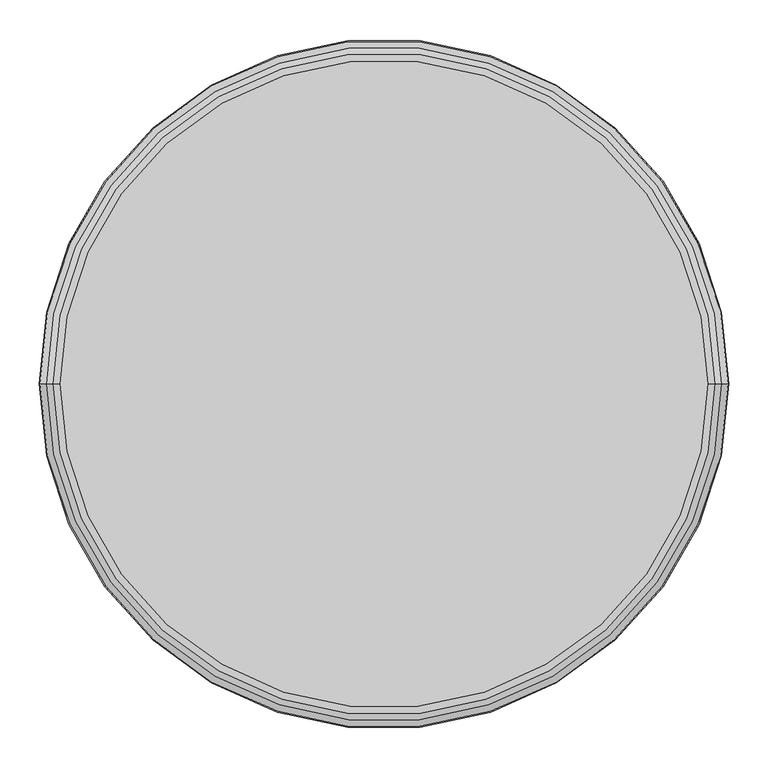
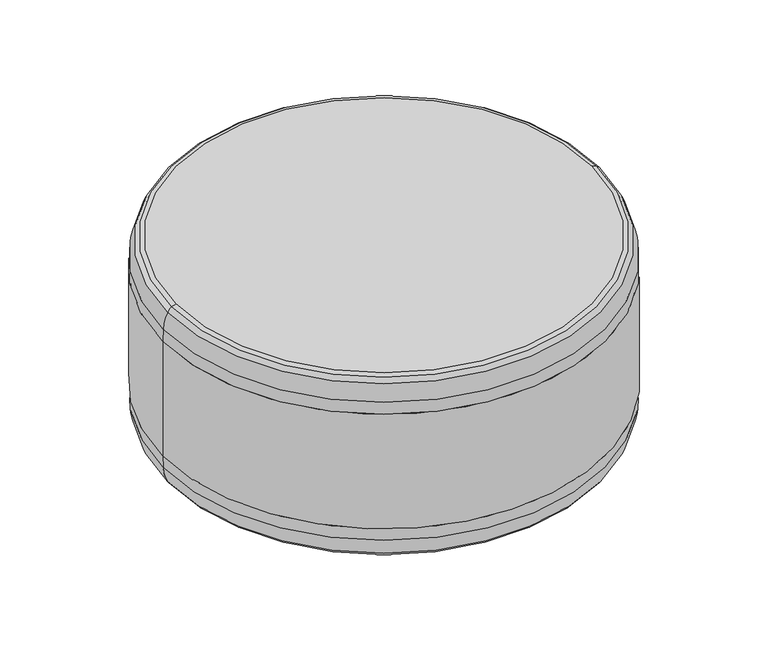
"""IFC4 building model written with IfcOpenShell, lengths in millimetres: furniture geometry, Puff - COLAB - 06 SP : Puff - COLAB - 06 SP."""

import ifcopenshell
import ifcopenshell.guid

model = None  # the IFC model being written
_history = None  # IfcOwnerHistory: only IFC2X3 demands one
_inside = {}  # id of a spatial element -> (the spatial element, [elements in it])
_under = {}  # id of a project, library or spatial element -> (it, [spatial elements below it])
_declared = {}  # id of a project -> (the project, [libraries it declares])
_typed = {}  # id of a type object -> (the type object, [elements of that type])
_made_of = {}  # id of a material, layer set ... -> (it, [elements and type objects made of it])


def new_model(schema):
    """Start an empty IFC model of exactly this schema.

    Asked for "IFC4X3", IfcOpenShell would pick the latest addendum, in which some entities
    have other attributes; the version numbers below select the first issue.
    IFC2X3 requires an IfcOwnerHistory on every rooted entity: one is made here for all.
    """
    global model, _history
    if schema == "IFC4X3":
        model = ifcopenshell.file(schema_version=(4, 3, 0, 0))
    else:
        model = ifcopenshell.file(schema=schema)
    _inside.clear()
    _under.clear()
    _declared.clear()
    _typed.clear()
    _made_of.clear()
    _history = None
    if model.schema == "IFC2X3":
        org = make("IfcOrganization", Name="unknown")
        user = make(
            "IfcPersonAndOrganization",
            ThePerson=make("IfcPerson", FamilyName="unknown"),
            TheOrganization=org,
        )
        app = make(
            "IfcApplication",
            ApplicationDeveloper=org,
            Version="unknown",
            ApplicationFullName="unknown",
            ApplicationIdentifier="unknown",
        )
        _history = make(
            "IfcOwnerHistory",
            OwningUser=user,
            OwningApplication=app,
            ChangeAction="ADDED",
            CreationDate=0,
        )
    return model


def make(cls, **values):
    """One entity of the class cls with the attributes given. An attribute that is None is left unset."""
    return model.create_entity(
        cls, **{name: value for name, value in values.items() if value is not None}
    )


def rooted(cls, **values):
    """An entity with a GlobalId (a new one), such as an element, a storey or a relation."""
    return make(cls, GlobalId=ifcopenshell.guid.new(), OwnerHistory=_history, **values)


def si_unit(unit_type, name, prefix=None):
    """IfcSIUnit, for example si_unit("LENGTHUNIT", "METRE", prefix="MILLI")."""
    return make("IfcSIUnit", UnitType=unit_type, Prefix=prefix, Name=name)


def assignment(units):
    """IfcUnitAssignment: the units of a project."""
    return None if units is None else make("IfcUnitAssignment", Units=units)


def point(xyz):
    """IfcCartesianPoint."""
    return None if xyz is None else make("IfcCartesianPoint", Coordinates=xyz)


def direction(xyz):
    """IfcDirection."""
    return None if xyz is None else make("IfcDirection", DirectionRatios=xyz)


def frame(location, z_axis=None, x_axis=None):
    """IfcAxis2Placement3D, a coordinate frame: its origin and axes. An axis left out is left unset."""
    return make(
        "IfcAxis2Placement3D",
        Location=point(location),
        Axis=direction(z_axis),
        RefDirection=direction(x_axis),
    )


def frame_2d(location, x_axis=None):
    """IfcAxis2Placement2D, a coordinate frame in the plane: its origin and x axis."""
    return make(
        "IfcAxis2Placement2D", Location=point(location), RefDirection=direction(x_axis)
    )


def origin():
    """The frame at (0, 0, 0) with its axes left unset."""
    return frame((0.0, 0.0, 0.0))


def origin_with_axes():
    """The frame at (0, 0, 0) with the z axis (0, 0, 1) and the x axis (1, 0, 0) written out."""
    return frame((0.0, 0.0, 0.0), z_axis=(0.0, 0.0, 1.0), x_axis=(1.0, 0.0, 0.0))


def place(relative_to, where):
    """IfcLocalPlacement: puts the frame where relative to a parent placement (None: the world)."""
    return make(
        "IfcLocalPlacement", PlacementRelTo=relative_to, RelativePlacement=where
    )


def context(
    kind, dimensions, precision=None, world=None, true_north=None, identifier=None
):
    """IfcGeometricRepresentationContext, for example the 3D "Model" context."""
    return make(
        "IfcGeometricRepresentationContext",
        ContextIdentifier=identifier,
        ContextType=kind,
        CoordinateSpaceDimension=dimensions,
        Precision=precision,
        WorldCoordinateSystem=world,
        TrueNorth=true_north,
    )


def project(units=None, contexts=None):
    """IfcProject with its units and contexts."""
    return rooted(
        "IfcProject",
        Name="project",
        RepresentationContexts=contexts,
        UnitsInContext=assignment(units),
    )


def spatial(cls, under=None, at=None, **own):
    """A site, building, storey or space (cls), placed at a placement, below another one or the project."""
    s = rooted(cls, ObjectPlacement=at, **own)
    if under is not None:
        _under.setdefault(under.id(), (under, []))[1].append(s)
    return s


def circle_curve(where, radius):
    """IfcCircle in the frame where."""
    return make("IfcCircle", Position=where, Radius=radius)


def ellipse_curve(where, semi_axis1, semi_axis2):
    """IfcEllipse in the frame where."""
    return make(
        "IfcEllipse", Position=where, SemiAxis1=semi_axis1, SemiAxis2=semi_axis2
    )


def trimmed(basis, trim1, trim2, sense, master):
    """IfcTrimmedCurve: the piece of a basis curve between two trims."""
    return make(
        "IfcTrimmedCurve",
        BasisCurve=basis,
        Trim1=trim1,
        Trim2=trim2,
        SenseAgreement=sense,
        MasterRepresentation=master,
    )


def segment(curve, same_sense, transition):
    """IfcCompositeCurveSegment."""
    return make(
        "IfcCompositeCurveSegment",
        Transition=transition,
        SameSense=same_sense,
        ParentCurve=curve,
    )


def composite_curve(segments, self_intersect=None):
    """IfcCompositeCurve: segments joined end to end."""
    return make("IfcCompositeCurve", Segments=segments, SelfIntersect=self_intersect)


def outline(outer, holes=None, kind="AREA"):
    """IfcArbitraryClosedProfileDef: a profile drawn as a closed curve; with holes, ...WithVoids."""
    if holes is None:
        return make("IfcArbitraryClosedProfileDef", ProfileType=kind, OuterCurve=outer)
    return make(
        "IfcArbitraryProfileDefWithVoids",
        ProfileType=kind,
        OuterCurve=outer,
        InnerCurves=holes,
    )


def extrude(swept, where, along, depth):
    """IfcExtrudedAreaSolid: the profile swept, set in the frame where, extruded along a direction by depth."""
    return make(
        "IfcExtrudedAreaSolid",
        SweptArea=swept,
        Position=where,
        ExtrudedDirection=direction(along),
        Depth=depth,
    )


def shape(context_of_items, identifier, shape_type, items):
    """IfcShapeRepresentation: the items that make up one representation, for example the "Body"."""
    return make(
        "IfcShapeRepresentation",
        ContextOfItems=context_of_items,
        RepresentationIdentifier=identifier,
        RepresentationType=shape_type,
        Items=items,
    )


def source(mapping_origin, context_of_items, identifier, shape_type, items):
    """IfcRepresentationMap: a shape defined once, which mapped items show again and again."""
    return make(
        "IfcRepresentationMap",
        MappingOrigin=mapping_origin,
        MappedRepresentation=shape(context_of_items, identifier, shape_type, items),
    )


def transform(
    local_origin,
    x_axis=None,
    y_axis=None,
    z_axis=None,
    scale=None,
    scale2=None,
    scale3=None,
    uniform=True,
):
    """IfcCartesianTransformationOperator3D, or its non-uniform kind. x_axis, y_axis, z_axis: its Axis1, 2, 3."""
    if uniform:
        return make(
            "IfcCartesianTransformationOperator3D",
            Axis1=direction(x_axis),
            Axis2=direction(y_axis),
            LocalOrigin=point(local_origin),
            Scale=scale,
            Axis3=direction(z_axis),
        )
    return make(
        "IfcCartesianTransformationOperator3DnonUniform",
        Axis1=direction(x_axis),
        Axis2=direction(y_axis),
        LocalOrigin=point(local_origin),
        Scale=scale,
        Axis3=direction(z_axis),
        Scale2=scale2,
        Scale3=scale3,
    )


def mapped(mapping_source, mapping_target):
    """IfcMappedItem: shows the shape of a source again, moved by a transform."""
    return make(
        "IfcMappedItem", MappingSource=mapping_source, MappingTarget=mapping_target
    )


def made_of(thing, what):
    """Note that an element or type object is made of a material, layer set ...; save() writes the relation."""
    if what is not None:
        _made_of.setdefault(what.id(), (what, []))[1].append(thing)
    return thing


def element(
    cls,
    number,
    at=None,
    inside=None,
    cuts=None,
    type_object=None,
    material=None,
    context=None,
    identifier="Body",
    shape_type=None,
    held_by="IfcProductDefinitionShape",
    body=None,
    shapes=None,
    **own,
):
    """One element of the class cls, such as IfcWall. Its Tag is "e" and its number.

    at: its placement. inside: the storey or other place that contains it. cuts: it is an
    opening in that element (IfcRelVoidsElement). A single representation is given by context,
    identifier, shape_type and body (its items); several are given by shapes. held_by: the class
    of the entity that holds the representations. save() writes the other relations.
    """
    e = rooted(cls, Tag="e%d" % number, ObjectPlacement=at, **own)
    if body is not None:
        shapes = [shape(context, identifier, shape_type, body)]
    if shapes is not None:
        e.Representation = make(held_by, Representations=shapes)
    if inside is not None:
        _inside.setdefault(inside.id(), (inside, []))[1].append(e)
    if cuts is not None:
        rooted(
            "IfcRelVoidsElement", RelatingBuildingElement=cuts, RelatedOpeningElement=e
        )
    if type_object is not None:
        _typed.setdefault(type_object.id(), (type_object, []))[1].append(e)
    return made_of(e, material)


def aggregate(whole, parts):
    """IfcRelAggregates: a whole, such as a stair, and the parts it consists of."""
    return rooted("IfcRelAggregates", RelatingObject=whole, RelatedObjects=parts)


def save(model, path):
    """Write the relations noted so far, then the file.

    IfcRelAggregates (storeys below a building ...), IfcRelContainedInSpatialStructure (elements
    in a storey), IfcRelDefinesByType, IfcRelAssociatesMaterial and IfcRelDeclares: one each for
    every whole, place, type object, material and project.
    """
    for whole, parts in _under.values():
        aggregate(whole, parts)
    for where, things in _inside.values():
        rooted(
            "IfcRelContainedInSpatialStructure",
            RelatedElements=things,
            RelatingStructure=where,
        )
    for kind, things in _typed.values():
        rooted("IfcRelDefinesByType", RelatedObjects=things, RelatingType=kind)
    for what, things in _made_of.values():
        rooted("IfcRelAssociatesMaterial", RelatedObjects=things, RelatingMaterial=what)
    for by, libraries in _declared.values():
        rooted("IfcRelDeclares", RelatingContext=by, RelatedDefinitions=libraries)
    model.write(path)


def plane_surface(at):
    """IfcPlane: the flat surface through the origin of the frame at, square to its z axis."""
    return make("IfcPlane", Position=at)


def cylinder_surface(at, radius):
    """IfcCylindricalSurface: all points at the distance radius from the z axis of the frame at."""
    return make("IfcCylindricalSurface", Position=at, Radius=radius)


def revolved_surface(curve, axis_point, axis_direction):
    """IfcSurfaceOfRevolution: the curve turned about the line through axis_point along axis_direction."""
    return make(
        "IfcSurfaceOfRevolution",
        SweptCurve=make("IfcArbitraryOpenProfileDef", ProfileType="CURVE", Curve=curve),
        AxisPosition=make("IfcAxis1Placement", Location=point(axis_point), Axis=direction(axis_direction)),
    )


def advanced_brep(points, edges, surfaces, faces):
    """IfcAdvancedBrep: a solid bounded by faces that lie on surfaces and meet in shared edges.

    An edge is (start, end): straight between two places in points (the first is 0);
    or (start, end, curve); or (start, end, curve, False) where it runs against its curve.
    A face is (place in surfaces, loops), or (place, loops, False) where it looks against
    its surface's normal. A loop lists edges by number (the first is 1), with a minus sign
    where the edge is run from its end to its start. The first loop is the outer one.
    """
    corners = [point(p) for p in points]
    vertices = [make("IfcVertexPoint", VertexGeometry=c) for c in corners]
    made = []
    for start, end, *more in edges:
        made.append(
            make(
                "IfcEdgeCurve",
                EdgeStart=vertices[start],
                EdgeEnd=vertices[end],
                EdgeGeometry=more[0] if more else make("IfcPolyline", Points=[corners[start], corners[end]]),
                SameSense=more[1] if len(more) > 1 else True,
            )
        )
    hull = []
    for where, loops, *sense in faces:
        bounds = []
        for j, loop in enumerate(loops):
            ring = [make("IfcOrientedEdge", EdgeElement=made[abs(k) - 1], Orientation=k > 0) for k in loop]
            bounds.append(
                make(
                    "IfcFaceOuterBound" if j == 0 else "IfcFaceBound",
                    Bound=make("IfcEdgeLoop", EdgeList=ring),
                    Orientation=True,
                )
            )
        hull.append(make("IfcAdvancedFace", Bounds=bounds, FaceSurface=surfaces[where], SameSense=sense[0] if sense else True))
    return make("IfcAdvancedBrep", Outer=make("IfcClosedShell", CfsFaces=hull))


def furniture_1e43df1f(model_context):
    return source(origin(), model_context, "Body", "SolidModel", [
        extrude(outline(composite_curve([segment(trimmed(circle_curve(frame_2d((-240.1724283, 244.5364248)), 2.5), [point((-242.6724283, 244.5364248))], [point((-237.6724283, 244.5364248))], False, "CARTESIAN"), True, "CONTINUOUS"), segment(trimmed(circle_curve(frame_2d((-240.1724283, 244.5364248)), 2.5), [point((-237.6724283, 244.5364248))], [point((-242.6724283, 244.5364248))], False, "CARTESIAN"), True, "CONTINUOUS")], self_intersect=False)), frame((0.0, 0.0, 5.0000003), z_axis=(0.0, 0.0, 1.0), x_axis=(1.0, 0.0, 0.0)), (0.0, 0.0, 1.0), 15.0),
        extrude(outline(composite_curve([segment(trimmed(circle_curve(frame_2d((240.1724283, 244.5364248)), 2.5), [point((242.6724283, 244.5364248))], [point((237.6724283, 244.5364248))], False, "CARTESIAN"), True, "CONTINUOUS"), segment(trimmed(circle_curve(frame_2d((240.1724283, 244.5364248)), 2.5), [point((237.6724283, 244.5364248))], [point((242.6724283, 244.5364248))], False, "CARTESIAN"), True, "CONTINUOUS")], self_intersect=False)), frame((0.0, 0.0, 5.0000003), z_axis=(0.0, 0.0, 1.0), x_axis=(1.0, 0.0, 0.0)), (0.0, 0.0, 1.0), 15.0),
        extrude(outline(composite_curve([segment(trimmed(circle_curve(frame_2d((-240.1724283, -244.5364248)), 2.5), [point((-242.6724283, -244.5364248))], [point((-237.6724283, -244.5364248))], False, "CARTESIAN"), True, "CONTINUOUS"), segment(trimmed(circle_curve(frame_2d((-240.1724283, -244.5364248)), 2.5), [point((-237.6724283, -244.5364248))], [point((-242.6724283, -244.5364248))], False, "CARTESIAN"), True, "CONTINUOUS")], self_intersect=False)), frame((0.0, 0.0, 5.0000003), z_axis=(0.0, 0.0, 1.0), x_axis=(1.0, 0.0, 0.0)), (0.0, 0.0, 1.0), 15.0),
        extrude(outline(composite_curve([segment(trimmed(circle_curve(frame_2d((240.1724283, -244.5364248)), 2.5), [point((242.6724283, -244.5364248))], [point((237.6724283, -244.5364248))], False, "CARTESIAN"), True, "CONTINUOUS"), segment(trimmed(circle_curve(frame_2d((240.1724283, -244.5364248)), 2.5), [point((237.6724283, -244.5364248))], [point((242.6724283, -244.5364248))], False, "CARTESIAN"), True, "CONTINUOUS")], self_intersect=False)), frame((0.0, 0.0, 5.0000003), z_axis=(0.0, 0.0, 1.0), x_axis=(1.0, 0.0, 0.0)), (0.0, 0.0, 1.0), 15.0),
        extrude(outline(composite_curve([segment(trimmed(circle_curve(frame_2d((-240.1724283, 244.5364248)), 10.9999992), [point((-251.1724276, 244.5364248))], [point((-229.1724291, 244.5364248))], False, "CARTESIAN"), True, "CONTINUOUS"), segment(trimmed(circle_curve(frame_2d((-240.1724283, 244.5364248)), 10.9999992), [point((-229.1724291, 244.5364248))], [point((-251.1724276, 244.5364248))], False, "CARTESIAN"), True, "CONTINUOUS")], self_intersect=False)), origin_with_axes(), (0.0, 0.0, 1.0), 5.0000003),
        extrude(outline(composite_curve([segment(trimmed(circle_curve(frame_2d((240.1724283, 244.5364248)), 10.9999992), [point((251.1724276, 244.5364248))], [point((229.1724291, 244.5364248))], False, "CARTESIAN"), True, "CONTINUOUS"), segment(trimmed(circle_curve(frame_2d((240.1724283, 244.5364248)), 10.9999992), [point((229.1724291, 244.5364248))], [point((251.1724276, 244.5364248))], False, "CARTESIAN"), True, "CONTINUOUS")], self_intersect=False)), origin_with_axes(), (0.0, 0.0, 1.0), 5.0000003),
        extrude(outline(composite_curve([segment(trimmed(circle_curve(frame_2d((-240.1724283, -244.5364248)), 10.9999992), [point((-251.1724276, -244.5364248))], [point((-229.1724291, -244.5364248))], False, "CARTESIAN"), True, "CONTINUOUS"), segment(trimmed(circle_curve(frame_2d((-240.1724283, -244.5364248)), 10.9999992), [point((-229.1724291, -244.5364248))], [point((-251.1724276, -244.5364248))], False, "CARTESIAN"), True, "CONTINUOUS")], self_intersect=False)), origin_with_axes(), (0.0, 0.0, 1.0), 5.0000003),
        extrude(outline(composite_curve([segment(trimmed(circle_curve(frame_2d((240.1724283, -244.5364248)), 10.9999992), [point((251.1724276, -244.5364248))], [point((229.1724291, -244.5364248))], False, "CARTESIAN"), True, "CONTINUOUS"), segment(trimmed(circle_curve(frame_2d((240.1724283, -244.5364248)), 10.9999992), [point((229.1724291, -244.5364248))], [point((251.1724276, -244.5364248))], False, "CARTESIAN"), True, "CONTINUOUS")], self_intersect=False)), origin_with_axes(), (0.0, 0.0, 1.0), 5.0000003),
        advanced_brep(
        [(415.0, 0.0, 399.9997873), (-415.0, 0.0, 399.9997873), (-414.9989646, 0.0, 20.0000003), (414.9989646, 0.0, 20.0000003), (-432.3071027, 0.0, 388.9598102), (-424.6242492, 0.0, 397.2397945), (424.6242492, 0.0, 397.2397945), (432.3071027, 0.0, 388.9598102), (440.9611881, 0.0, 355.8398869), (-440.9611881, 0.0, 355.8398869), (441.962508, 0.0, 330.8599477), (-441.962508, 0.0, 330.8599477), (441.962508, 0.0, 89.1398529), (-441.962508, 0.0, 89.1398529), (440.9611881, 0.0, 64.1599138), (-440.9611881, 0.0, 64.1599138), (432.3071027, 0.0, 31.0399905), (-432.3071027, 0.0, 31.0399905), (424.6242492, 0.0, 22.7600062), (-424.6242492, 0.0, 22.7600062)],
        [
            (0, 1, circle_curve(frame((0.0, 0.0, 399.9997873), z_axis=(0.0, 0.0, 1.0), x_axis=(1.0, 0.0, 0.0)), 415.0)),
            (1, 0, circle_curve(frame((0.0, 0.0, 399.9997873), z_axis=(0.0, 0.0, 1.0), x_axis=(1.0, 0.0, 0.0)), 415.0)),
            (2, 3, circle_curve(frame((0.0, 0.0, 20.0000003), z_axis=(0.0, 0.0, -1.0), x_axis=(1.0, 0.0, 0.0)), 414.9989646)),
            (3, 2, circle_curve(frame((0.0, 0.0, 20.0000003), z_axis=(0.0, 0.0, -1.0), x_axis=(1.0, 0.0, 0.0)), 414.9989646)),
            (4, 5, circle_curve(frame((-413.8990655, 0.0, 379.5836977), z_axis=(0.0, 1.0, 0.0), x_axis=(-1.0, 0.0, 0.0)), 20.6583475)),
            (5, 6, circle_curve(frame((0.0, 0.0, 397.2397945), z_axis=(0.0, 0.0, -1.0), x_axis=(1.0, 0.0, 0.0)), 424.6242492)),
            (6, 7, circle_curve(frame((413.8990655, 0.0, 379.5836977), z_axis=(0.0, 1.0, 0.0), x_axis=(1.0, 0.0, 0.0)), 20.6583475)),
            (7, 4, circle_curve(frame((0.0, 0.0, 388.9598102), z_axis=(0.0, 0.0, 1.0), x_axis=(1.0, 0.0, 0.0)), 432.3071027)),
            (4, 7, circle_curve(frame((0.0, 0.0, 388.9598102), z_axis=(0.0, 0.0, 1.0), x_axis=(1.0, 0.0, 0.0)), 432.3071027)),
            (6, 5, circle_curve(frame((0.0, 0.0, 397.2397945), z_axis=(0.0, 0.0, -1.0), x_axis=(1.0, 0.0, 0.0)), 424.6242492)),
            (7, 8, circle_curve(frame((360.9894006, 0.0, 352.6342208), z_axis=(0.0, 1.0, 0.0), x_axis=(1.0, 0.0, 0.0)), 80.0360112)),
            (8, 9, circle_curve(frame((0.0, 0.0, 355.8398869), z_axis=(0.0, 0.0, 1.0), x_axis=(1.0, 0.0, 0.0)), 440.9611881)),
            (9, 4, circle_curve(frame((-360.9894006, 0.0, 352.6342208), z_axis=(0.0, 1.0, 0.0), x_axis=(-1.0, 0.0, 0.0)), 80.0360112)),
            (9, 8, circle_curve(frame((0.0, 0.0, 355.8398869), z_axis=(0.0, 0.0, 1.0), x_axis=(1.0, 0.0, 0.0)), 440.9611881)),
            (8, 10, circle_curve(frame((202.3247884, 0.0, 333.7641172), z_axis=(0.0, 1.0, 0.0), x_axis=(1.0, 0.0, 0.0)), 239.6553167)),
            (10, 11, circle_curve(frame((0.0, 0.0, 330.8599477), z_axis=(0.0, 0.0, 1.0), x_axis=(1.0, 0.0, 0.0)), 441.962508)),
            (11, 9, circle_curve(frame((-202.3247884, 0.0, 333.7641172), z_axis=(0.0, 1.0, 0.0), x_axis=(-1.0, 0.0, 0.0)), 239.6553167)),
            (11, 10, circle_curve(frame((0.0, 0.0, 330.8599477), z_axis=(0.0, 0.0, 1.0), x_axis=(1.0, 0.0, 0.0)), 441.962508)),
            (10, 12),
            (12, 13, circle_curve(frame((0.0, 0.0, 89.1398529), z_axis=(0.0, 0.0, 1.0), x_axis=(1.0, 0.0, 0.0)), 441.962508)),
            (13, 11),
            (13, 12, circle_curve(frame((0.0, 0.0, 89.1398529), z_axis=(0.0, 0.0, 1.0), x_axis=(1.0, 0.0, 0.0)), 441.962508)),
            (12, 14, circle_curve(frame((202.3247884, 0.0, 86.2356835), z_axis=(0.0, 1.0, 0.0), x_axis=(1.0, 0.0, 0.0)), 239.6553167)),
            (14, 15, circle_curve(frame((0.0, 0.0, 64.1599138), z_axis=(0.0, 0.0, 1.0), x_axis=(1.0, 0.0, 0.0)), 440.9611881)),
            (15, 13, circle_curve(frame((-202.3247884, 0.0, 86.2356835), z_axis=(0.0, 1.0, 0.0), x_axis=(-1.0, 0.0, 0.0)), 239.6553167)),
            (15, 14, circle_curve(frame((0.0, 0.0, 64.1599138), z_axis=(0.0, 0.0, 1.0), x_axis=(1.0, 0.0, 0.0)), 440.9611881)),
            (14, 16, circle_curve(frame((360.9894006, 0.0, 67.3655799), z_axis=(0.0, 1.0, 0.0), x_axis=(1.0, 0.0, 0.0)), 80.0360112)),
            (16, 17, circle_curve(frame((0.0, 0.0, 31.0399905), z_axis=(0.0, 0.0, 1.0), x_axis=(1.0, 0.0, 0.0)), 432.3071027)),
            (17, 15, circle_curve(frame((-360.9894006, 0.0, 67.3655799), z_axis=(0.0, 1.0, 0.0), x_axis=(-1.0, 0.0, 0.0)), 80.0360112)),
            (17, 16, circle_curve(frame((0.0, 0.0, 31.0399905), z_axis=(0.0, 0.0, 1.0), x_axis=(1.0, 0.0, 0.0)), 432.3071027)),
            (16, 18, circle_curve(frame((413.8990655, 0.0, 40.416103), z_axis=(0.0, 1.0, 0.0), x_axis=(1.0, 0.0, 0.0)), 20.6583475)),
            (18, 19, circle_curve(frame((0.0, 0.0, 22.7600062), z_axis=(0.0, 0.0, 1.0), x_axis=(1.0, 0.0, 0.0)), 424.6242492)),
            (19, 17, circle_curve(frame((-413.8990655, 0.0, 40.416103), z_axis=(0.0, 1.0, 0.0), x_axis=(-1.0, 0.0, 0.0)), 20.6583475)),
            (19, 18, circle_curve(frame((0.0, 0.0, 22.7600062), z_axis=(0.0, 0.0, 1.0), x_axis=(1.0, 0.0, 0.0)), 424.6242492)),
            (18, 3, circle_curve(frame((414.7590449, 0.0, 39.0003809), z_axis=(0.0, 1.0, 0.0), x_axis=(1.0, 0.0, 0.0)), 19.0018953)),
            (2, 19, circle_curve(frame((-414.7590449, 0.0, 39.0003809), z_axis=(0.0, 1.0, 0.0), x_axis=(-1.0, 0.0, 0.0)), 19.0018953)),
            (5, 1, circle_curve(frame((-414.7590449, 0.0, 380.9994198), z_axis=(0.0, 1.0, 0.0), x_axis=(-1.0, 0.0, 0.0)), 19.0018953)),
            (0, 6, circle_curve(frame((414.7590449, 0.0, 380.9994198), z_axis=(0.0, 1.0, 0.0), x_axis=(1.0, 0.0, 0.0)), 19.0018953)),
        ],
        [
            plane_surface(frame((450.0, 0.0, 399.9997873), z_axis=(0.0, 0.0, 1.0), x_axis=(0.0, 1.0, 0.0))),
            plane_surface(frame((450.0, 0.0, 20.0000003), z_axis=(0.0, 0.0, -1.0), x_axis=(0.0, -1.0, 0.0))),
            revolved_surface(trimmed(ellipse_curve(frame((413.8990655, 0.0, 379.5836977), z_axis=(0.0, -1.0, 0.0), x_axis=(1.0, 0.0, 0.0)), 20.6583475, 20.6583475), [point((432.3071027, 0.0, 388.9598102))], [point((424.6242492, 0.0, 397.2397945))], True, "CARTESIAN"), (0.0, 0.0, 493.1011053), (0.0, 0.0, 1.0)),
            revolved_surface(trimmed(ellipse_curve(frame((360.9894006, 0.0, 352.6342208), z_axis=(0.0, -1.0, 0.0), x_axis=(1.0, 0.0, 0.0)), 80.0360112, 80.0360112), [point((440.9611881, 0.0, 355.8398869))], [point((432.3071027, 0.0, 388.9598102))], True, "CARTESIAN"), (0.0, 0.0, 493.1011053), (0.0, 0.0, 1.0)),
            revolved_surface(trimmed(ellipse_curve(frame((202.3247884, 0.0, 333.7641172), z_axis=(0.0, -1.0, 0.0), x_axis=(1.0, 0.0, 0.0)), 239.6553167, 239.6553167), [point((441.962508, 0.0, 330.8599477))], [point((440.9611881, 0.0, 355.8398869))], True, "CARTESIAN"), (0.0, 0.0, 493.1011053), (0.0, 0.0, 1.0)),
            cylinder_surface(frame((0.0, 0.0, 493.1011053), z_axis=(0.0, 0.0, 1.0), x_axis=(1.0, 0.0, 0.0)), 441.962508),
            revolved_surface(trimmed(ellipse_curve(frame((202.3247884, 0.0, 86.2356835), z_axis=(0.0, -1.0, 0.0), x_axis=(1.0, 0.0, 0.0)), 239.6553167, 239.6553167), [point((440.9611881, 0.0, 64.1599138))], [point((441.962508, 0.0, 89.1398529))], True, "CARTESIAN"), (0.0, 0.0, 493.1011053), (0.0, 0.0, 1.0)),
            revolved_surface(trimmed(ellipse_curve(frame((360.9894006, 0.0, 67.3655799), z_axis=(0.0, -1.0, 0.0), x_axis=(1.0, 0.0, 0.0)), 80.0360112, 80.0360112), [point((432.3071027, 0.0, 31.0399905))], [point((440.9611881, 0.0, 64.1599138))], True, "CARTESIAN"), (0.0, 0.0, 493.1011053), (0.0, 0.0, 1.0)),
            revolved_surface(trimmed(ellipse_curve(frame((413.8990655, 0.0, 40.416103), z_axis=(0.0, -1.0, 0.0), x_axis=(1.0, 0.0, 0.0)), 20.6583475, 20.6583475), [point((424.6242492, 0.0, 22.7600062))], [point((432.3071027, 0.0, 31.0399905))], True, "CARTESIAN"), (0.0, 0.0, 493.1011053), (0.0, 0.0, 1.0)),
            revolved_surface(trimmed(ellipse_curve(frame((414.7590449, 0.0, 39.0003809), z_axis=(0.0, -1.0, 0.0), x_axis=(1.0, 0.0, 0.0)), 19.0018953, 19.0018953), [point((414.9989646, 0.0, 20.0000003))], [point((424.6242492, 0.0, 22.7600062))], True, "CARTESIAN"), (0.0, 0.0, 493.1011053), (0.0, 0.0, 1.0)),
            revolved_surface(trimmed(ellipse_curve(frame((414.7590449, 0.0, 380.9994198), z_axis=(0.0, -1.0, 0.0), x_axis=(1.0, 0.0, 0.0)), 19.0018953, 19.0018953), [point((424.6242492, 0.0, 397.2397945))], [point((415.0, 0.0, 399.9997873))], True, "CARTESIAN"), (0.0, 0.0, 493.1011053), (0.0, 0.0, 1.0)),
        ],
        [
            (0, [[1, 2]]),
            (1, [[3, 4]]),
            (2, [[5, 6, 7, 8]]),
            (2, [[-5, 9, -7, 10]]),
            (3, [[-8, 11, 12, 13]]),
            (3, [[-9, -13, 14, -11]]),
            (4, [[-12, 15, 16, 17]]),
            (4, [[-14, -17, 18, -15]]),
            (5, [[-16, 19, 20, 21]]),
            (5, [[-18, -21, 22, -19]]),
            (6, [[-20, 23, 24, 25]]),
            (6, [[-22, -25, 26, -23]]),
            (7, [[-24, 27, 28, 29]]),
            (7, [[-26, -29, 30, -27]]),
            (8, [[-28, 31, 32, 33]]),
            (8, [[-30, -33, 34, -31]]),
            (9, [[-32, 35, -3, 36]]),
            (9, [[-34, -36, -4, -35]]),
            (10, [[-6, 37, -1, 38]]),
            (10, [[-10, -38, -2, -37]]),
        ],
    ),
    ])


if __name__ == "__main__":
    model = new_model("IFC4")
    model_context = context("Model", 3, world=origin())
    ifc_project = project(units=[si_unit("LENGTHUNIT", "METRE", prefix="MILLI")], contexts=[model_context])
    site = spatial("IfcSite", under=ifc_project)
    building = spatial("IfcBuilding", under=site)
    placement = place(None, origin())
    furniture_shape = furniture_1e43df1f(model_context)
    element("IfcFurniture", 1, ObjectType="Puff - COLAB - 06 SP : Puff - COLAB - 06 SP", at=placement, inside=building, context=model_context, shape_type="MappedRepresentation", body=[
        mapped(furniture_shape, transform((0.0, 0.0, 0.0), x_axis=(1.0, 0.0, 0.0), y_axis=(0.0, 1.0, 0.0), z_axis=(0.0, 0.0, 1.0))),
    ])
    save(model, "model.ifc")
